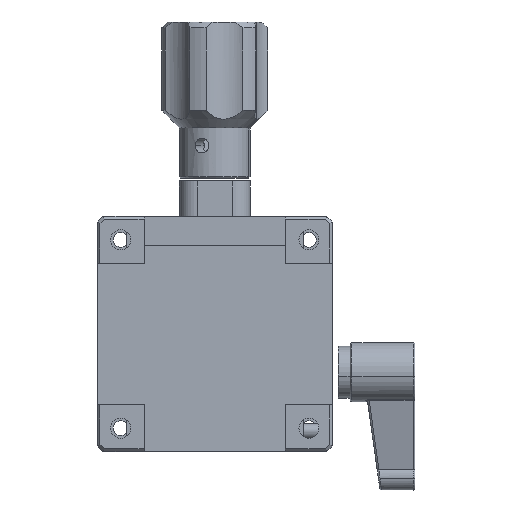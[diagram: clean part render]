
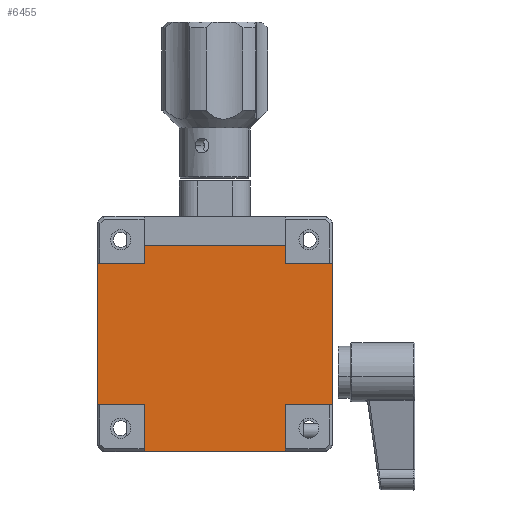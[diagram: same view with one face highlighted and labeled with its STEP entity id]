
A CAD part, front view. The second image highlights one B-rep face of the part: STEP entity #6455.
In plain terms, the highlighted planar face has unit normal (0, -1, 0).
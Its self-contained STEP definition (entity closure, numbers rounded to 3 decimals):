
#64 = EDGE_CURVE ( 'NONE', #1294, #11847, #1554, .T. ) ;
#315 = CARTESIAN_POINT ( 'NONE',  ( 14.402, -14.489, 28. ) ) ;
#686 = ORIENTED_EDGE ( 'NONE', *, *, #64, .T. ) ;
#720 = EDGE_CURVE ( 'NONE', #11836, #1294, #1530, .T. ) ;
#760 = CARTESIAN_POINT ( 'NONE',  ( -9.598, -14.489, 20. ) ) ;
#884 = CARTESIAN_POINT ( 'NONE',  ( -9.598, -14.489, 55. ) ) ;
#1253 = LINE ( 'NONE', #760, #1542 ) ;
#1294 = VERTEX_POINT ( 'NONE', #315 ) ;
#1407 = VECTOR ( 'NONE', #6601, 1000. ) ;
#1419 = EDGE_CURVE ( 'NONE', #10809, #4417, #9527, .T. ) ;
#1433 = ORIENTED_EDGE ( 'NONE', *, *, #720, .T. ) ;
#1463 = CARTESIAN_POINT ( 'NONE',  ( 14.402, -14.489, 28. ) ) ;
#1527 = DIRECTION ( 'NONE',  ( 0., 0., 1. ) ) ;
#1530 = LINE ( 'NONE', #1463, #9092 ) ;
#1542 = VECTOR ( 'NONE', #9500, 1000. ) ;
#1547 = CARTESIAN_POINT ( 'NONE',  ( -9.598, -14.489, 52. ) ) ;
#1554 = LINE ( 'NONE', #4689, #1407 ) ;
#1660 = EDGE_CURVE ( 'NONE', #1692, #6777, #9220, .T. ) ;
#1692 = VERTEX_POINT ( 'NONE', #1797 ) ;
#1797 = CARTESIAN_POINT ( 'NONE',  ( -17.598, -14.489, 52. ) ) ;
#2168 = DIRECTION ( 'NONE',  ( -1., 0., 0. ) ) ;
#2309 = EDGE_CURVE ( 'NONE', #6777, #10809, #5573, .T. ) ;
#2487 = CARTESIAN_POINT ( 'NONE',  ( -17.598, -14.489, 52. ) ) ;
#2657 = VECTOR ( 'NONE', #3642, 1000. ) ;
#3062 = LINE ( 'NONE', #3917, #7874 ) ;
#3208 = CARTESIAN_POINT ( 'NONE',  ( 14.402, -14.489, 20. ) ) ;
#3335 = VECTOR ( 'NONE', #5100, 1000. ) ;
#3403 = EDGE_LOOP ( 'NONE', ( #11578, #7194, #4180, #7014, #4431, #6162, #4474, #1433, #686, #10336, #3670, #3761 ) ) ;
#3432 = VERTEX_POINT ( 'NONE', #5905 ) ;
#3500 = VECTOR ( 'NONE', #12081, 1000. ) ;
#3642 = DIRECTION ( 'NONE',  ( 1., 0., 0. ) ) ;
#3670 = ORIENTED_EDGE ( 'NONE', *, *, #8682, .T. ) ;
#3743 = VECTOR ( 'NONE', #7336, 1000. ) ;
#3761 = ORIENTED_EDGE ( 'NONE', *, *, #7566, .T. ) ;
#3864 = DIRECTION ( 'NONE',  ( 0., 0., 1. ) ) ;
#3894 = LINE ( 'NONE', #2487, #3743 ) ;
#3917 = CARTESIAN_POINT ( 'NONE',  ( 14.402, -14.489, 52. ) ) ;
#3951 = EDGE_CURVE ( 'NONE', #11702, #3432, #9447, .T. ) ;
#4044 = PLANE ( 'NONE',  #7587 ) ;
#4176 = VECTOR ( 'NONE', #8425, 1000. ) ;
#4180 = ORIENTED_EDGE ( 'NONE', *, *, #11574, .T. ) ;
#4182 = CARTESIAN_POINT ( 'NONE',  ( 22.402, -14.489, 28. ) ) ;
#4417 = VERTEX_POINT ( 'NONE', #6384 ) ;
#4431 = ORIENTED_EDGE ( 'NONE', *, *, #2309, .T. ) ;
#4474 = ORIENTED_EDGE ( 'NONE', *, *, #7381, .T. ) ;
#4689 = CARTESIAN_POINT ( 'NONE',  ( 22.402, -14.489, 28. ) ) ;
#4774 = LINE ( 'NONE', #1547, #4176 ) ;
#5100 = DIRECTION ( 'NONE',  ( 0., 0., 1. ) ) ;
#5144 = LINE ( 'NONE', #6177, #12544 ) ;
#5217 = FACE_OUTER_BOUND ( 'NONE', #3403, .T. ) ;
#5566 = CARTESIAN_POINT ( 'NONE',  ( -17.598, -14.489, 28. ) ) ;
#5573 = LINE ( 'NONE', #9869, #7382 ) ;
#5905 = CARTESIAN_POINT ( 'NONE',  ( 14.402, -14.489, 55. ) ) ;
#5984 = CARTESIAN_POINT ( 'NONE',  ( -9.598, -14.489, 28. ) ) ;
#6162 = ORIENTED_EDGE ( 'NONE', *, *, #1419, .T. ) ;
#6177 = CARTESIAN_POINT ( 'NONE',  ( 22.402, -14.489, 52. ) ) ;
#6345 = CARTESIAN_POINT ( 'NONE',  ( -17.598, -14.489, 28. ) ) ;
#6384 = CARTESIAN_POINT ( 'NONE',  ( -9.598, -14.489, 20. ) ) ;
#6455 = ADVANCED_FACE ( 'NONE', ( #5217 ), #4044, .T. ) ;
#6601 = DIRECTION ( 'NONE',  ( 1., 0., 0. ) ) ;
#6777 = VERTEX_POINT ( 'NONE', #5566 ) ;
#6810 = DIRECTION ( 'NONE',  ( 0., 0., -1. ) ) ;
#6824 = DIRECTION ( 'NONE',  ( 1., 0., 0. ) ) ;
#6954 = DIRECTION ( 'NONE',  ( 0., 0., -1. ) ) ;
#7014 = ORIENTED_EDGE ( 'NONE', *, *, #1660, .T. ) ;
#7110 = CARTESIAN_POINT ( 'NONE',  ( 22.402, -14.489, 28. ) ) ;
#7194 = ORIENTED_EDGE ( 'NONE', *, *, #12537, .T. ) ;
#7336 = DIRECTION ( 'NONE',  ( -1., 0., 0. ) ) ;
#7381 = EDGE_CURVE ( 'NONE', #4417, #11836, #1253, .T. ) ;
#7382 = VECTOR ( 'NONE', #6824, 1000. ) ;
#7566 = EDGE_CURVE ( 'NONE', #10909, #3432, #3062, .T. ) ;
#7587 = AXIS2_PLACEMENT_3D ( 'NONE', #7820, #10700, #6810 ) ;
#7698 = CARTESIAN_POINT ( 'NONE',  ( 22.402, -14.489, 52. ) ) ;
#7820 = CARTESIAN_POINT ( 'NONE',  ( 2.402, -14.489, 40. ) ) ;
#7874 = VECTOR ( 'NONE', #3864, 1000. ) ;
#8359 = VERTEX_POINT ( 'NONE', #10354 ) ;
#8425 = DIRECTION ( 'NONE',  ( 0., 0., -1. ) ) ;
#8682 = EDGE_CURVE ( 'NONE', #8810, #10909, #5144, .T. ) ;
#8769 = VECTOR ( 'NONE', #6954, 1000. ) ;
#8810 = VERTEX_POINT ( 'NONE', #7698 ) ;
#9042 = EDGE_CURVE ( 'NONE', #11847, #8810, #9354, .T. ) ;
#9092 = VECTOR ( 'NONE', #1527, 1000. ) ;
#9220 = LINE ( 'NONE', #6345, #3500 ) ;
#9354 = LINE ( 'NONE', #7110, #3335 ) ;
#9447 = LINE ( 'NONE', #884, #2657 ) ;
#9490 = CARTESIAN_POINT ( 'NONE',  ( -9.598, -14.489, 55. ) ) ;
#9500 = DIRECTION ( 'NONE',  ( 1., 0., 0. ) ) ;
#9527 = LINE ( 'NONE', #5984, #8769 ) ;
#9869 = CARTESIAN_POINT ( 'NONE',  ( -17.598, -14.489, 28. ) ) ;
#10336 = ORIENTED_EDGE ( 'NONE', *, *, #9042, .T. ) ;
#10354 = CARTESIAN_POINT ( 'NONE',  ( -9.598, -14.489, 52. ) ) ;
#10700 = DIRECTION ( 'NONE',  ( 0., -1., 0. ) ) ;
#10809 = VERTEX_POINT ( 'NONE', #11925 ) ;
#10830 = CARTESIAN_POINT ( 'NONE',  ( 14.402, -14.489, 52. ) ) ;
#10909 = VERTEX_POINT ( 'NONE', #10830 ) ;
#11574 = EDGE_CURVE ( 'NONE', #8359, #1692, #3894, .T. ) ;
#11578 = ORIENTED_EDGE ( 'NONE', *, *, #3951, .F. ) ;
#11702 = VERTEX_POINT ( 'NONE', #9490 ) ;
#11836 = VERTEX_POINT ( 'NONE', #3208 ) ;
#11847 = VERTEX_POINT ( 'NONE', #4182 ) ;
#11925 = CARTESIAN_POINT ( 'NONE',  ( -9.598, -14.489, 28. ) ) ;
#12081 = DIRECTION ( 'NONE',  ( 0., 0., -1. ) ) ;
#12537 = EDGE_CURVE ( 'NONE', #11702, #8359, #4774, .T. ) ;
#12544 = VECTOR ( 'NONE', #2168, 1000. ) ;
